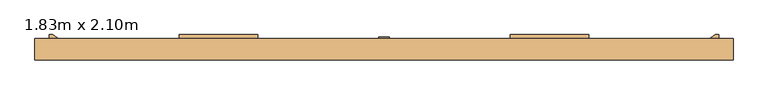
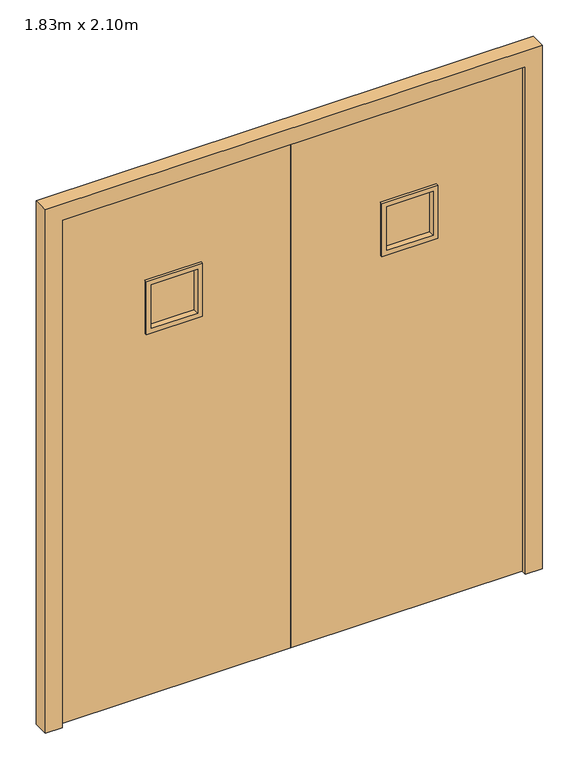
"""IFC4 building model written with IfcOpenShell, lengths in millimetres: door geometry, Issue de Secours : 1.83m x 2.10m."""

import ifcopenshell
import ifcopenshell.guid

model = None  # the IFC model being written
_history = None  # IfcOwnerHistory: only IFC2X3 demands one
_inside = {}  # id of a spatial element -> (the spatial element, [elements in it])
_under = {}  # id of a project, library or spatial element -> (it, [spatial elements below it])
_declared = {}  # id of a project -> (the project, [libraries it declares])
_typed = {}  # id of a type object -> (the type object, [elements of that type])
_made_of = {}  # id of a material, layer set ... -> (it, [elements and type objects made of it])


def new_model(schema):
    """Start an empty IFC model of exactly this schema.

    Asked for "IFC4X3", IfcOpenShell would pick the latest addendum, in which some entities
    have other attributes; the version numbers below select the first issue.
    IFC2X3 requires an IfcOwnerHistory on every rooted entity: one is made here for all.
    """
    global model, _history
    if schema == "IFC4X3":
        model = ifcopenshell.file(schema_version=(4, 3, 0, 0))
    else:
        model = ifcopenshell.file(schema=schema)
    _inside.clear()
    _under.clear()
    _declared.clear()
    _typed.clear()
    _made_of.clear()
    _history = None
    if model.schema == "IFC2X3":
        org = make("IfcOrganization", Name="unknown")
        user = make(
            "IfcPersonAndOrganization",
            ThePerson=make("IfcPerson", FamilyName="unknown"),
            TheOrganization=org,
        )
        app = make(
            "IfcApplication",
            ApplicationDeveloper=org,
            Version="unknown",
            ApplicationFullName="unknown",
            ApplicationIdentifier="unknown",
        )
        _history = make(
            "IfcOwnerHistory",
            OwningUser=user,
            OwningApplication=app,
            ChangeAction="ADDED",
            CreationDate=0,
        )
    return model


def make(cls, **values):
    """One entity of the class cls with the attributes given. An attribute that is None is left unset."""
    return model.create_entity(
        cls, **{name: value for name, value in values.items() if value is not None}
    )


def rooted(cls, **values):
    """An entity with a GlobalId (a new one), such as an element, a storey or a relation."""
    return make(cls, GlobalId=ifcopenshell.guid.new(), OwnerHistory=_history, **values)


def si_unit(unit_type, name, prefix=None):
    """IfcSIUnit, for example si_unit("LENGTHUNIT", "METRE", prefix="MILLI")."""
    return make("IfcSIUnit", UnitType=unit_type, Prefix=prefix, Name=name)


def assignment(units):
    """IfcUnitAssignment: the units of a project."""
    return None if units is None else make("IfcUnitAssignment", Units=units)


def point(xyz):
    """IfcCartesianPoint."""
    return None if xyz is None else make("IfcCartesianPoint", Coordinates=xyz)


def direction(xyz):
    """IfcDirection."""
    return None if xyz is None else make("IfcDirection", DirectionRatios=xyz)


def frame(location, z_axis=None, x_axis=None):
    """IfcAxis2Placement3D, a coordinate frame: its origin and axes. An axis left out is left unset."""
    return make(
        "IfcAxis2Placement3D",
        Location=point(location),
        Axis=direction(z_axis),
        RefDirection=direction(x_axis),
    )


def origin():
    """The frame at (0, 0, 0) with its axes left unset."""
    return frame((0.0, 0.0, 0.0))


def origin_with_axes():
    """The frame at (0, 0, 0) with the z axis (0, 0, 1) and the x axis (1, 0, 0) written out."""
    return frame((0.0, 0.0, 0.0), z_axis=(0.0, 0.0, 1.0), x_axis=(1.0, 0.0, 0.0))


def place(relative_to, where):
    """IfcLocalPlacement: puts the frame where relative to a parent placement (None: the world)."""
    return make(
        "IfcLocalPlacement", PlacementRelTo=relative_to, RelativePlacement=where
    )


def context(
    kind, dimensions, precision=None, world=None, true_north=None, identifier=None
):
    """IfcGeometricRepresentationContext, for example the 3D "Model" context."""
    return make(
        "IfcGeometricRepresentationContext",
        ContextIdentifier=identifier,
        ContextType=kind,
        CoordinateSpaceDimension=dimensions,
        Precision=precision,
        WorldCoordinateSystem=world,
        TrueNorth=true_north,
    )


def project(units=None, contexts=None):
    """IfcProject with its units and contexts."""
    return rooted(
        "IfcProject",
        Name="project",
        RepresentationContexts=contexts,
        UnitsInContext=assignment(units),
    )


def spatial(cls, under=None, at=None, **own):
    """A site, building, storey or space (cls), placed at a placement, below another one or the project."""
    s = rooted(cls, ObjectPlacement=at, **own)
    if under is not None:
        _under.setdefault(under.id(), (under, []))[1].append(s)
    return s


def polyline(points):
    """IfcPolyline through the points."""
    return make("IfcPolyline", Points=[point(p) for p in points])


def outline(outer, holes=None, kind="AREA"):
    """IfcArbitraryClosedProfileDef: a profile drawn as a closed curve; with holes, ...WithVoids."""
    if holes is None:
        return make("IfcArbitraryClosedProfileDef", ProfileType=kind, OuterCurve=outer)
    return make(
        "IfcArbitraryProfileDefWithVoids",
        ProfileType=kind,
        OuterCurve=outer,
        InnerCurves=holes,
    )


def extrude(swept, where, along, depth):
    """IfcExtrudedAreaSolid: the profile swept, set in the frame where, extruded along a direction by depth."""
    return make(
        "IfcExtrudedAreaSolid",
        SweptArea=swept,
        Position=where,
        ExtrudedDirection=direction(along),
        Depth=depth,
    )


def faces_of(points, faces, orient=None, outer=None):
    """IfcFace entities. A face is a list of loops; a loop is a list of indices into points, from 0.

    orient and outer hold one flag for each loop. By default every Orientation is true, the
    first loop of a face is its IfcFaceOuterBound and the others are IfcFaceBound.
    """
    made = []
    for i, loops in enumerate(faces):
        bounds = []
        for j, loop in enumerate(loops):
            is_outer = j == 0 if outer is None else outer[i][j]
            bounds.append(
                make(
                    "IfcFaceOuterBound" if is_outer else "IfcFaceBound",
                    Bound=make("IfcPolyLoop", Polygon=[points[k] for k in loop]),
                    Orientation=True if orient is None else orient[i][j],
                )
            )
        made.append(make("IfcFace", Bounds=bounds))
    return made


def faceted_brep(points, faces, orient=None, outer=None, voids=None):
    """IfcFacetedBrep: a solid bounded by flat faces; with voids (closed shells), ...WithVoids."""
    shared = [point(p) for p in points]
    hull = make("IfcClosedShell", CfsFaces=faces_of(shared, faces, orient, outer))
    if voids is None:
        return make("IfcFacetedBrep", Outer=hull)
    return make(
        "IfcFacetedBrepWithVoids",
        Outer=hull,
        Voids=[
            make(cls, CfsFaces=faces_of(shared, fs, o, b)) for cls, fs, o, b in voids
        ],
    )


def shape(context_of_items, identifier, shape_type, items):
    """IfcShapeRepresentation: the items that make up one representation, for example the "Body"."""
    return make(
        "IfcShapeRepresentation",
        ContextOfItems=context_of_items,
        RepresentationIdentifier=identifier,
        RepresentationType=shape_type,
        Items=items,
    )


def source(mapping_origin, context_of_items, identifier, shape_type, items):
    """IfcRepresentationMap: a shape defined once, which mapped items show again and again."""
    return make(
        "IfcRepresentationMap",
        MappingOrigin=mapping_origin,
        MappedRepresentation=shape(context_of_items, identifier, shape_type, items),
    )


def transform(
    local_origin,
    x_axis=None,
    y_axis=None,
    z_axis=None,
    scale=None,
    scale2=None,
    scale3=None,
    uniform=True,
):
    """IfcCartesianTransformationOperator3D, or its non-uniform kind. x_axis, y_axis, z_axis: its Axis1, 2, 3."""
    if uniform:
        return make(
            "IfcCartesianTransformationOperator3D",
            Axis1=direction(x_axis),
            Axis2=direction(y_axis),
            LocalOrigin=point(local_origin),
            Scale=scale,
            Axis3=direction(z_axis),
        )
    return make(
        "IfcCartesianTransformationOperator3DnonUniform",
        Axis1=direction(x_axis),
        Axis2=direction(y_axis),
        LocalOrigin=point(local_origin),
        Scale=scale,
        Axis3=direction(z_axis),
        Scale2=scale2,
        Scale3=scale3,
    )


def mapped(mapping_source, mapping_target):
    """IfcMappedItem: shows the shape of a source again, moved by a transform."""
    return make(
        "IfcMappedItem", MappingSource=mapping_source, MappingTarget=mapping_target
    )


def made_of(thing, what):
    """Note that an element or type object is made of a material, layer set ...; save() writes the relation."""
    if what is not None:
        _made_of.setdefault(what.id(), (what, []))[1].append(thing)
    return thing


def element(
    cls,
    number,
    at=None,
    inside=None,
    cuts=None,
    type_object=None,
    material=None,
    context=None,
    identifier="Body",
    shape_type=None,
    held_by="IfcProductDefinitionShape",
    body=None,
    shapes=None,
    **own,
):
    """One element of the class cls, such as IfcWall. Its Tag is "e" and its number.

    at: its placement. inside: the storey or other place that contains it. cuts: it is an
    opening in that element (IfcRelVoidsElement). A single representation is given by context,
    identifier, shape_type and body (its items); several are given by shapes. held_by: the class
    of the entity that holds the representations. save() writes the other relations.
    """
    e = rooted(cls, Tag="e%d" % number, ObjectPlacement=at, **own)
    if body is not None:
        shapes = [shape(context, identifier, shape_type, body)]
    if shapes is not None:
        e.Representation = make(held_by, Representations=shapes)
    if inside is not None:
        _inside.setdefault(inside.id(), (inside, []))[1].append(e)
    if cuts is not None:
        rooted(
            "IfcRelVoidsElement", RelatingBuildingElement=cuts, RelatedOpeningElement=e
        )
    if type_object is not None:
        _typed.setdefault(type_object.id(), (type_object, []))[1].append(e)
    return made_of(e, material)


def aggregate(whole, parts):
    """IfcRelAggregates: a whole, such as a stair, and the parts it consists of."""
    return rooted("IfcRelAggregates", RelatingObject=whole, RelatedObjects=parts)


def save(model, path):
    """Write the relations noted so far, then the file.

    IfcRelAggregates (storeys below a building ...), IfcRelContainedInSpatialStructure (elements
    in a storey), IfcRelDefinesByType, IfcRelAssociatesMaterial and IfcRelDeclares: one each for
    every whole, place, type object, material and project.
    """
    for whole, parts in _under.values():
        aggregate(whole, parts)
    for where, things in _inside.values():
        rooted(
            "IfcRelContainedInSpatialStructure",
            RelatedElements=things,
            RelatingStructure=where,
        )
    for kind, things in _typed.values():
        rooted("IfcRelDefinesByType", RelatedObjects=things, RelatingType=kind)
    for what, things in _made_of.values():
        rooted("IfcRelAssociatesMaterial", RelatedObjects=things, RelatingMaterial=what)
    for by, libraries in _declared.values():
        rooted("IfcRelDeclares", RelatingContext=by, RelatedDefinitions=libraries)
    model.write(path)


def door_1_83m_x_2_10m_bea1f0ef(model_context):
    return source(origin(), model_context, "Body", "SolidModel", [
        faceted_brep([(-915.0, 170.0, 0.0), (-915.0, 130.0, 0.0), (-900.0, 130.0, 0.0), (-900.0, 110.0, 0.0), (-965.0, 110.0, 0.0), (-965.0, 170.0, 0.0), (-915.0, 170.0, 2100.0), (-915.0, 130.0, 2100.0), (915.0, 130.0, 2100.0), (915.0, 130.0, 0.0), (900.0, 130.0, 0.0), (900.0, 130.0, 2085.0), (-900.0, 130.0, 2085.0), (-900.0, 110.0, 2085.0), (900.0, 110.0, 2085.0), (900.0, 110.0, 0.0), (965.0, 110.0, 0.0), (965.0, 110.0, 2150.0), (-965.0, 110.0, 2150.0), (-965.0, 170.0, 2150.0), (965.0, 170.0, 2150.0), (965.0, 170.0, 0.0), (915.0, 170.0, 0.0), (915.0, 170.0, 2100.0)], [[[0, 1, 2, 3, 4, 5]], [[1, 0, 6, 7]], [[2, 1, 7, 8, 9, 10, 11, 12]], [[3, 2, 12, 13]], [[4, 3, 13, 14, 15, 16, 17, 18]], [[5, 4, 18, 19]], [[0, 5, 19, 20, 21, 22, 23, 6]], [[8, 23, 22, 9]], [[22, 21, 16, 15, 10, 9]], [[14, 11, 10, 15]], [[20, 17, 16, 21]], [[7, 6, 23, 8]], [[13, 12, 11, 14]], [[19, 18, 17, 20]]]),
        extrude(outline(polyline([(15.0, 173.0), (15.0, 170.0), (-15.0, 170.0), (-15.0, 173.0), (15.0, 173.0)])), origin_with_axes(), (0.0, 0.0, 1.0), 2100.0),
        extrude(outline(polyline([(362.5, 144.0), (362.5, 156.0), (552.5, 156.0), (552.5, 144.0), (362.5, 144.0)])), frame((0.0, 0.0, 1505.0), z_axis=(0.0, 0.0, 1.0), x_axis=(1.0, 0.0, 0.0)), (0.0, 0.0, 1.0), 190.0),
        faceted_brep([(557.5, 130.0, 1500.0), (557.5, 170.0, 1500.0), (557.5, 170.0, 1700.0), (557.5, 130.0, 1700.0), (566.5618929, 120.0, 1490.9381071), (566.5618929, 130.0, 1490.9381071), (566.5618929, 130.0, 1709.0618929), (566.5618929, 120.0, 1709.0618929), (547.5, 144.0, 1510.0), (547.5, 120.0, 1510.0), (547.5, 120.0, 1690.0), (547.5, 144.0, 1690.0), (552.5, 156.0, 1505.0), (552.5, 144.0, 1505.0), (552.5, 144.0, 1695.0), (552.5, 156.0, 1695.0), (547.5, 180.0, 1510.0), (547.5, 156.0, 1510.0), (547.5, 156.0, 1690.0), (547.5, 180.0, 1690.0), (566.5618929, 170.0, 1490.9381071), (566.5618929, 180.0, 1490.9381071), (566.5618929, 180.0, 1709.0618929), (566.5618929, 170.0, 1709.0618929), (357.5, 170.0, 1700.0), (357.5, 130.0, 1700.0), (348.4381071, 130.0, 1709.0618929), (348.4381071, 120.0, 1709.0618929), (367.5, 120.0, 1690.0), (367.5, 144.0, 1690.0), (362.5, 144.0, 1695.0), (362.5, 156.0, 1695.0), (367.5, 156.0, 1690.0), (367.5, 180.0, 1690.0), (348.4381071, 180.0, 1709.0618929), (348.4381071, 170.0, 1709.0618929), (357.5, 170.0, 1500.0), (357.5, 130.0, 1500.0), (348.4381071, 130.0, 1490.9381071), (348.4381071, 120.0, 1490.9381071), (367.5, 120.0, 1510.0), (367.5, 144.0, 1510.0), (362.5, 144.0, 1505.0), (362.5, 156.0, 1505.0), (367.5, 156.0, 1510.0), (367.5, 180.0, 1510.0), (348.4381071, 180.0, 1490.9381071), (348.4381071, 170.0, 1490.9381071)], [[[0, 1, 2, 3]], [[4, 5, 6, 7]], [[8, 9, 10, 11]], [[12, 13, 14, 15]], [[16, 17, 18, 19]], [[20, 21, 22, 23]], [[3, 2, 24, 25]], [[7, 6, 26, 27]], [[11, 10, 28, 29]], [[15, 14, 30, 31]], [[19, 18, 32, 33]], [[23, 22, 34, 35]], [[25, 24, 36, 37]], [[27, 26, 38, 39]], [[29, 28, 40, 41]], [[31, 30, 42, 43]], [[33, 32, 44, 45]], [[35, 34, 46, 47]], [[37, 36, 1, 0]], [[5, 38, 26, 6], [3, 25, 37, 0]], [[39, 38, 5, 4]], [[7, 27, 39, 4], [9, 40, 28, 10]], [[41, 40, 9, 8]], [[13, 42, 30, 14], [11, 29, 41, 8]], [[43, 42, 13, 12]], [[15, 31, 43, 12], [17, 44, 32, 18]], [[45, 44, 17, 16]], [[21, 46, 34, 22], [19, 33, 45, 16]], [[47, 46, 21, 20]], [[23, 35, 47, 20], [1, 36, 24, 2]]]),
        extrude(outline(polyline([(2100.0, 915.0), (2100.0, 0.0), (0.0, 0.0), (0.0, 915.0), (2100.0, 915.0)]), holes=[polyline([(1700.0, 357.5), (1700.0, 557.5), (1500.0, 557.5), (1500.0, 357.5), (1700.0, 357.5)])]), frame((0.0, 130.0, 0.0), z_axis=(0.0, 1.0, 0.0), x_axis=(0.0, 0.0, 1.0)), (0.0, 0.0, 1.0), 40.0),
        extrude(outline(polyline([(-552.5, 144.0), (-552.5, 156.0), (-362.5, 156.0), (-362.5, 144.0), (-552.5, 144.0)])), frame((0.0, 0.0, 1505.0), z_axis=(0.0, 0.0, 1.0), x_axis=(1.0, 0.0, 0.0)), (0.0, 0.0, 1.0), 190.0),
        faceted_brep([(-357.5, 130.0, 1500.0), (-357.5, 170.0, 1500.0), (-357.5, 170.0, 1700.0), (-357.5, 130.0, 1700.0), (-348.4381071, 120.0, 1490.9381071), (-348.4381071, 130.0, 1490.9381071), (-348.4381071, 130.0, 1709.0618929), (-348.4381071, 120.0, 1709.0618929), (-367.5, 144.0, 1510.0), (-367.5, 120.0, 1510.0), (-367.5, 120.0, 1690.0), (-367.5, 144.0, 1690.0), (-362.5, 156.0, 1505.0), (-362.5, 144.0, 1505.0), (-362.5, 144.0, 1695.0), (-362.5, 156.0, 1695.0), (-367.5, 180.0, 1510.0), (-367.5, 156.0, 1510.0), (-367.5, 156.0, 1690.0), (-367.5, 180.0, 1690.0), (-348.4381071, 170.0, 1490.9381071), (-348.4381071, 180.0, 1490.9381071), (-348.4381071, 180.0, 1709.0618929), (-348.4381071, 170.0, 1709.0618929), (-557.5, 170.0, 1700.0), (-557.5, 130.0, 1700.0), (-566.5618929, 130.0, 1709.0618929), (-566.5618929, 120.0, 1709.0618929), (-547.5, 120.0, 1690.0), (-547.5, 144.0, 1690.0), (-552.5, 144.0, 1695.0), (-552.5, 156.0, 1695.0), (-547.5, 156.0, 1690.0), (-547.5, 180.0, 1690.0), (-566.5618929, 180.0, 1709.0618929), (-566.5618929, 170.0, 1709.0618929), (-557.5, 170.0, 1500.0), (-557.5, 130.0, 1500.0), (-566.5618929, 130.0, 1490.9381071), (-566.5618929, 120.0, 1490.9381071), (-547.5, 120.0, 1510.0), (-547.5, 144.0, 1510.0), (-552.5, 144.0, 1505.0), (-552.5, 156.0, 1505.0), (-547.5, 156.0, 1510.0), (-547.5, 180.0, 1510.0), (-566.5618929, 180.0, 1490.9381071), (-566.5618929, 170.0, 1490.9381071)], [[[0, 1, 2, 3]], [[4, 5, 6, 7]], [[8, 9, 10, 11]], [[12, 13, 14, 15]], [[16, 17, 18, 19]], [[20, 21, 22, 23]], [[3, 2, 24, 25]], [[7, 6, 26, 27]], [[11, 10, 28, 29]], [[15, 14, 30, 31]], [[19, 18, 32, 33]], [[23, 22, 34, 35]], [[25, 24, 36, 37]], [[27, 26, 38, 39]], [[29, 28, 40, 41]], [[31, 30, 42, 43]], [[33, 32, 44, 45]], [[35, 34, 46, 47]], [[37, 36, 1, 0]], [[5, 38, 26, 6], [3, 25, 37, 0]], [[39, 38, 5, 4]], [[7, 27, 39, 4], [9, 40, 28, 10]], [[41, 40, 9, 8]], [[13, 42, 30, 14], [11, 29, 41, 8]], [[43, 42, 13, 12]], [[15, 31, 43, 12], [17, 44, 32, 18]], [[45, 44, 17, 16]], [[21, 46, 34, 22], [19, 33, 45, 16]], [[47, 46, 21, 20]], [[23, 35, 47, 20], [1, 36, 24, 2]]]),
        extrude(outline(polyline([(2100.0, 0.0), (2100.0, -915.0), (0.0, -915.0), (0.0, 0.0), (2100.0, 0.0)]), holes=[polyline([(1700.0, -557.5), (1700.0, -357.5), (1500.0, -357.5), (1500.0, -557.5), (1700.0, -557.5)])]), frame((0.0, 130.0, 0.0), z_axis=(0.0, 1.0, 0.0), x_axis=(0.0, 0.0, 1.0)), (0.0, 0.0, 1.0), 40.0),
        extrude(outline(polyline([(925.0, 180.0), (925.0, 170.0), (900.0, 170.0), (915.0, 180.0), (925.0, 180.0)])), frame((0.0, 0.0, 1800.0), z_axis=(0.0, 0.0, 1.0), x_axis=(1.0, 0.0, 0.0)), (0.0, 0.0, 1.0), 50.0),
        extrude(outline(polyline([(-925.0, 180.0), (-915.0, 180.0), (-900.0, 170.0), (-925.0, 170.0), (-925.0, 180.0)])), frame((0.0, 0.0, 1800.0), z_axis=(0.0, 0.0, 1.0), x_axis=(1.0, 0.0, 0.0)), (0.0, 0.0, 1.0), 50.0),
        extrude(outline(polyline([(925.0, 180.0), (925.0, 170.0), (915.0, 170.0), (915.0, 180.0), (925.0, 180.0)])), frame((0.0, 0.0, 1750.0), z_axis=(0.0, 0.0, 1.0), x_axis=(1.0, 0.0, 0.0)), (0.0, 0.0, 1.0), 50.0),
        extrude(outline(polyline([(-915.0, 180.0), (-915.0, 170.0), (-925.0, 170.0), (-925.0, 180.0), (-915.0, 180.0)])), frame((0.0, 0.0, 1750.0), z_axis=(0.0, 0.0, 1.0), x_axis=(1.0, 0.0, 0.0)), (0.0, 0.0, 1.0), 50.0),
        extrude(outline(polyline([(-925.0, 170.0), (-925.0, 180.0), (-915.0, 180.0), (-900.0, 170.0), (-925.0, 170.0)])), frame((0.0, 0.0, 300.0), z_axis=(0.0, 0.0, 1.0), x_axis=(1.0, 0.0, 0.0)), (0.0, 0.0, 1.0), 50.0),
        extrude(outline(polyline([(925.0, 180.0), (925.0, 170.0), (900.0, 170.0), (915.0, 180.0), (925.0, 180.0)])), frame((0.0, 0.0, 300.0), z_axis=(0.0, 0.0, 1.0), x_axis=(1.0, 0.0, 0.0)), (0.0, 0.0, 1.0), 50.0),
        extrude(outline(polyline([(-915.0, 180.0), (-915.0, 170.0), (-925.0, 170.0), (-925.0, 180.0), (-915.0, 180.0)])), frame((0.0, 0.0, 250.0), z_axis=(0.0, 0.0, 1.0), x_axis=(1.0, 0.0, 0.0)), (0.0, 0.0, 1.0), 50.0),
        extrude(outline(polyline([(915.0, 180.0), (925.0, 180.0), (925.0, 170.0), (915.0, 170.0), (915.0, 180.0)])), frame((0.0, 0.0, 250.0), z_axis=(0.0, 0.0, 1.0), x_axis=(1.0, 0.0, 0.0)), (0.0, 0.0, 1.0), 50.0),
    ])


if __name__ == "__main__":
    model = new_model("IFC4")
    model_context = context("Model", 3, world=origin())
    ifc_project = project(units=[si_unit("LENGTHUNIT", "METRE", prefix="MILLI")], contexts=[model_context])
    site = spatial("IfcSite", under=ifc_project)
    building = spatial("IfcBuilding", under=site)
    placement = place(None, origin())
    door_1_83m_x_2_10m_shape = door_1_83m_x_2_10m_bea1f0ef(model_context)
    element("IfcDoor", 1, ObjectType="Issue de Secours : 1.83m x 2.10m", at=placement, inside=building, context=model_context, shape_type="MappedRepresentation", body=[
        mapped(door_1_83m_x_2_10m_shape, transform((0.0, 0.0, 0.0), x_axis=(1.0, 0.0, 0.0), y_axis=(0.0, 1.0, 0.0), z_axis=(0.0, 0.0, 1.0))),
    ])
    save(model, "model.ifc")
